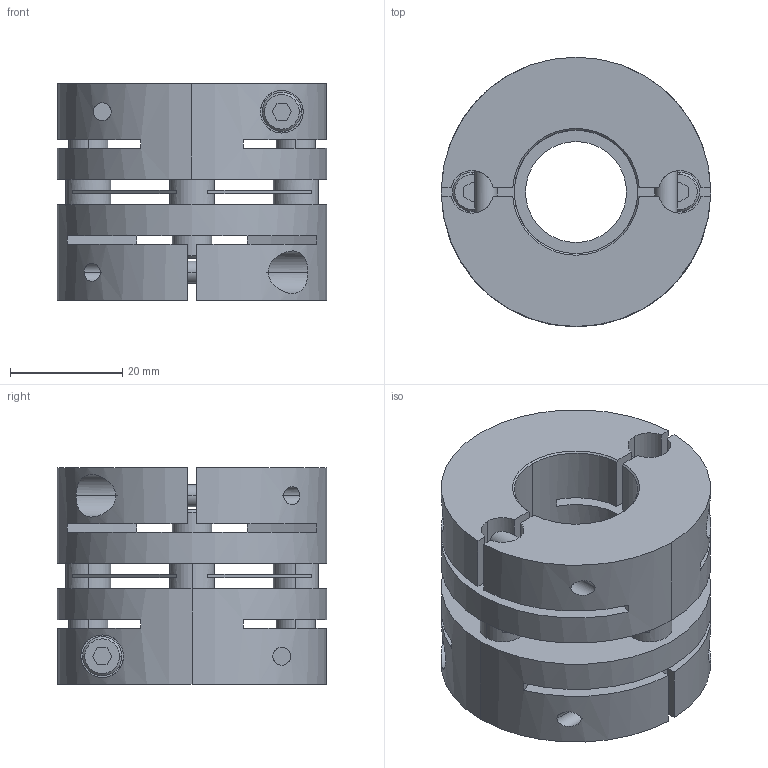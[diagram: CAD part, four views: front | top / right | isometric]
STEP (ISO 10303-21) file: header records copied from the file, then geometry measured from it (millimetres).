
FILE_DESCRIPTION((''),'2;1');
FILE_NAME('LAS-48C-22×22.stp','2015-11-02T01:44:03',(''),(''),'AutoCAD STEP 2000i','AutoCAD 2000i',', , ');
FILE_SCHEMA(('CONFIG_CONTROL_DESIGN'));
Length unit declared in the file: millimetre
Products named in the file (7): LAS-48C-19×19; 忣兜1; LA-4802-D19-1; LA-4802-D19; LA-4802-D12-1; LA-4802-D12; LAS48-ITA
Assembly tree (6 placements, depth 2):
  LAS-48C-19×19
    忣兜1
    LA-4802-D19-1
    LA-4802-D19
    LA-4802-D12-1
    LA-4802-D12
    LAS48-ITA
Bounding box: 48 x 48 x 38.6 mm (x, y, z)
Volume: 43987.2 mm3; surface area: 21319.4 mm2
Topology: 1 solids, 1 shells, 224 faces, 612 edges, 400 vertices
Faces by surface type: plane 112, cylinder 84, cone 28
Entity records: 8075 total; most frequent: CARTESIAN_POINT 2043, DIRECTION 1262, ORIENTED_EDGE 1224, EDGE_CURVE 612, AXIS2_PLACEMENT_3D 459, VERTEX_POINT 400, VECTOR 344, LINE 344
